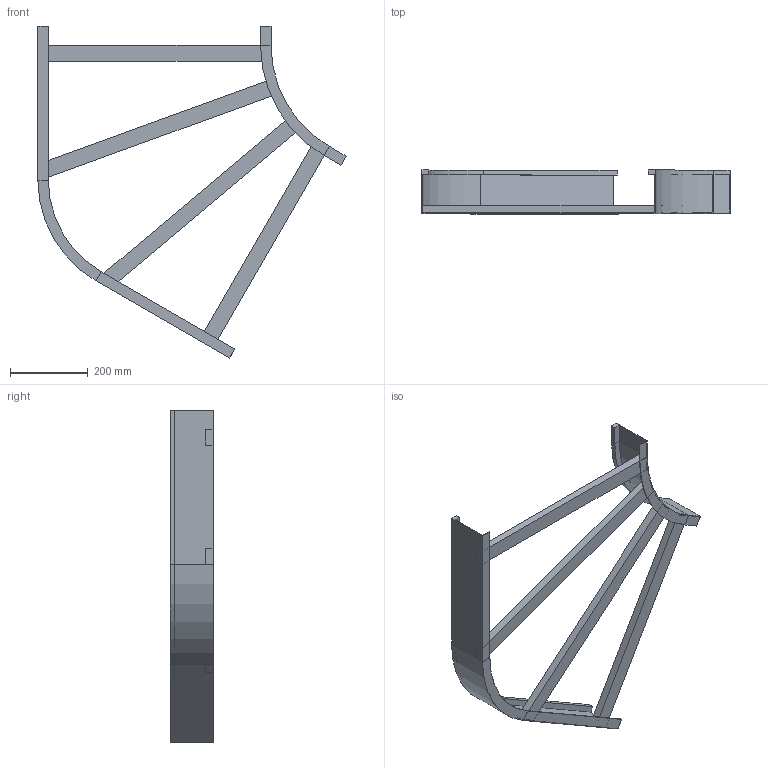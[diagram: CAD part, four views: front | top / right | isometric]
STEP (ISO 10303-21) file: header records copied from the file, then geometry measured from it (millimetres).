
FILE_DESCRIPTION (( 'STEP AP214' ), '1' );
FILE_NAME ('B2_13B3J600.step', '2025-02-21T15:20:10', ( '' ), ( '' ), 'SwSTEP 2.0', 'SolidWorks 2023', '' );
FILE_SCHEMA (( 'AUTOMOTIVE_DESIGN' ));
Length unit declared in the file: millimetre
Products named in the file (5): B2_LONGH.INTERNO 60°_H112.5_R300; TRAVERSINO_600; B2_13B3J600; TRAVERSINO_700_SCANTONATO; B2_LONGH.ESTERNO 60°_H112.5_R300+600
Assembly tree (6 placements, depth 2):
  B2_13B3J600
    B2_LONGH.INTERNO 60°_H112.5_R300
    B2_LONGH.ESTERNO 60°_H112.5_R300+600
    TRAVERSINO_600  x2
    TRAVERSINO_700_SCANTONATO  x2
Bounding box: 793.3 x 112.5 x 854.42 mm (x, y, z)
Volume: 2735870.5 mm3; surface area: 784100.5 mm2
Topology: 6 solids, 6 shells, 76 faces, 160 edges, 96 vertices
Faces by surface type: plane 68, cylinder 8
Entity records: 1830 total; most frequent: DIRECTION 298, CARTESIAN_POINT 289, ORIENTED_EDGE 272, EDGE_CURVE 136, LINE 120, VECTOR 120, AXIS2_PLACEMENT_3D 89, VERTEX_POINT 80
